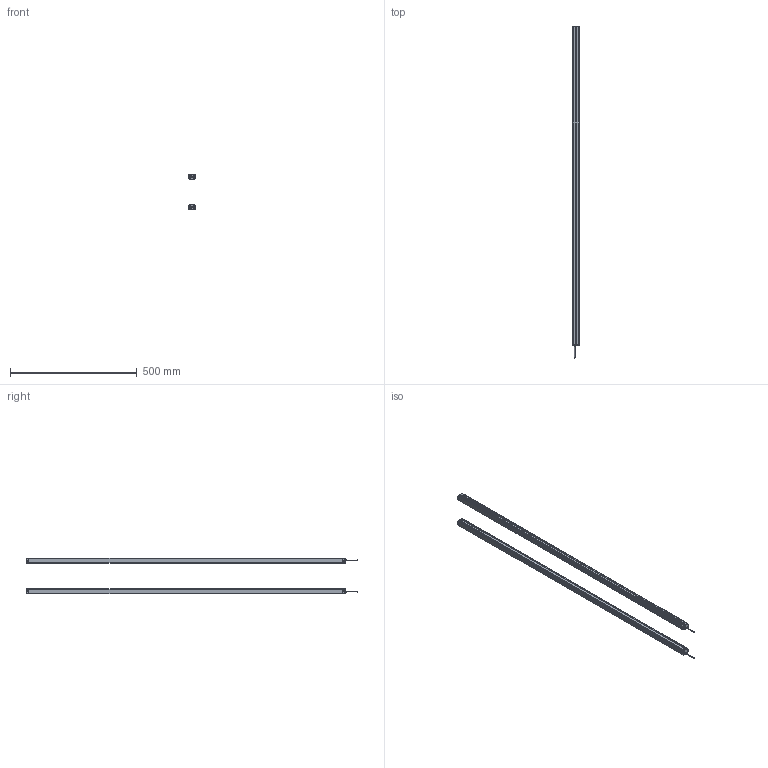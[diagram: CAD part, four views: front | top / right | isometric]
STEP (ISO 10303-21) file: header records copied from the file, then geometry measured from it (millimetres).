
FILE_DESCRIPTION (( 'STEP AP214' ), '1' );
FILE_NAME ('MTC6220.STEP', '2022-08-02T09:09:25', ( '' ), ( '' ), 'SwSTEP 2.0', 'SolidWorks 2018', '' );
FILE_SCHEMA (( 'AUTOMOTIVE_DESIGN' ));
Length unit declared in the file: millimetre
Products named in the file (5): MTC6220; 噩砃P02^MTC; P02^MTC; P01^MTC; MTC waike^MTC
Assembly tree (6 placements, depth 2):
  MTC6220
    MTC waike^MTC  x2
    P01^MTC  x2
    P02^MTC
    噩砃P02^MTC
Bounding box: 25 x 1312 x 141.4 mm (x, y, z)
Volume: 413607.1 mm3; surface area: 575273.7 mm2
Topology: 8 solids, 8 shells, 480 faces, 1396 edges, 924 vertices
Faces by surface type: plane 272, cylinder 208
Entity records: 10886 total; most frequent: DIRECTION 1881, CARTESIAN_POINT 1878, ORIENTED_EDGE 1846, EDGE_CURVE 923, AXIS2_PLACEMENT_3D 637, VERTEX_POINT 610, VECTOR 607, LINE 607
